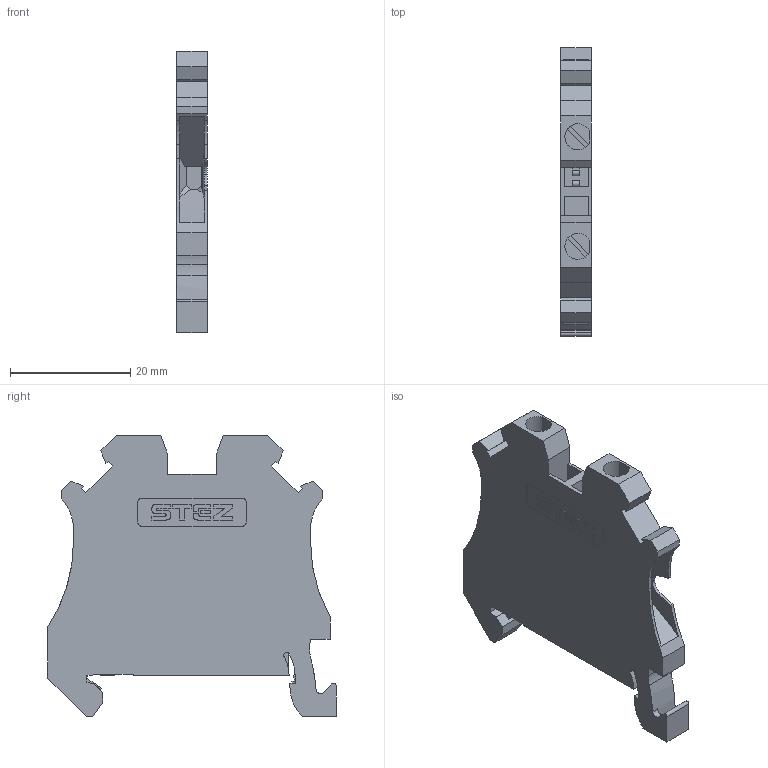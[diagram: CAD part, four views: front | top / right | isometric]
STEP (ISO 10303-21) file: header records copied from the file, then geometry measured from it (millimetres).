
FILE_DESCRIPTION(('TFLEX Exchange Step'),'2;1');
FILE_NAME('11000002_KHB_2,5-2-PE.stp', '2023-10-02T16:35:58+03:00',('apanin'),('Unknown organisation'),'TFLEX Exchange 2023.0','T-FLEX CAD','Unknown authorisation');
FILE_SCHEMA( ('AUTOMOTIVE_DESIGN { 1 0 10303 214 1 1 1 1 }') );
Length unit declared in the file: millimetre
Products named in the file (1): Тело_1:1
Bounding box: 5.15 x 48 x 46.85 mm (x, y, z)
Volume: 6982.3 mm3; surface area: 5468 mm2
Topology: 1 solids, 1 shells, 405 faces, 1176 edges, 782 vertices
Faces by surface type: plane 211, cylinder 194
Entity records: 13559 total; most frequent: CARTESIAN_POINT 2411, DIRECTION 2352, ORIENTED_EDGE 2352, EDGE_CURVE 1176, AXIS2_PLACEMENT_3D 817, VERTEX_POINT 782, VECTOR 718, LINE 718
